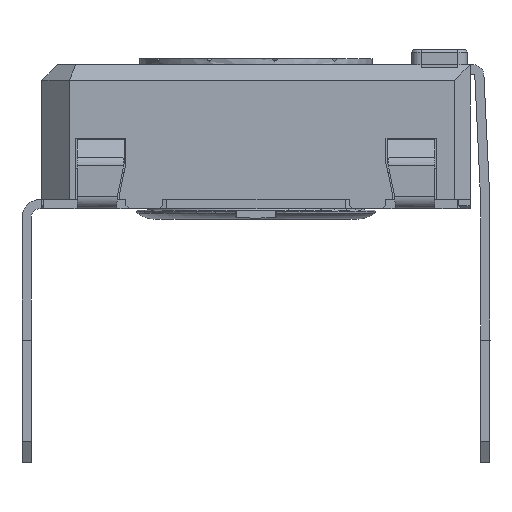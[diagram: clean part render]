
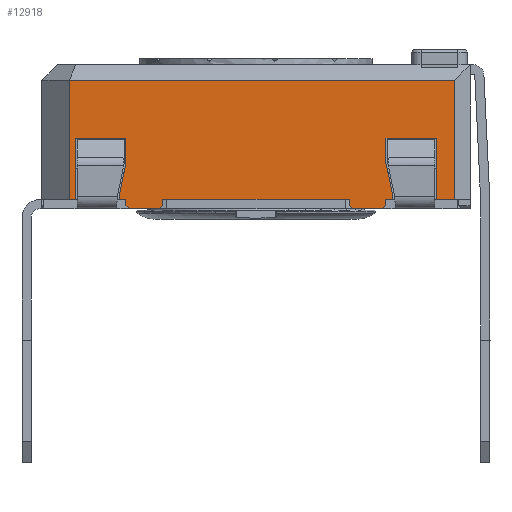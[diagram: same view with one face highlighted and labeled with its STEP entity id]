
A CAD part, left-side view. The second image highlights one B-rep face of the part: STEP entity #12918.
In plain terms, the highlighted planar face has unit normal (-1, 0, 0).
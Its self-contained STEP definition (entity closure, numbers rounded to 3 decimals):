
#447=PLANE('',#13794);
#1047=FACE_OUTER_BOUND('',#1735,.T.);
#1735=EDGE_LOOP('',(#10649,#10650,#10651,#10652,#10653,#10654,#10655,#10656,
#10657,#10658,#10659,#10660,#10661,#10662,#10663,#10664,#10665,#10666,#10667,
#10668,#10669,#10670,#10671,#10672,#10673,#10674,#10675,#10676));
#2729=LINE('',#19708,#4217);
#2735=LINE('',#19720,#4223);
#2738=LINE('',#19727,#4226);
#2743=LINE('',#19736,#4231);
#2763=LINE('',#19777,#4251);
#2777=LINE('',#19803,#4265);
#2781=LINE('',#19810,#4269);
#2796=LINE('',#19839,#4284);
#2799=LINE('',#19845,#4287);
#2804=LINE('',#19855,#4292);
#2807=LINE('',#19861,#4295);
#2810=LINE('',#19867,#4298);
#2828=LINE('',#19902,#4316);
#2840=LINE('',#19924,#4328);
#2843=LINE('',#19930,#4331);
#2880=LINE('',#20064,#4368);
#2888=LINE('',#20078,#4376);
#2897=LINE('',#20096,#4385);
#2902=LINE('',#20106,#4390);
#2904=LINE('',#20109,#4392);
#3028=LINE('',#20417,#4516);
#3030=LINE('',#20422,#4518);
#3033=LINE('',#20426,#4521);
#3035=LINE('',#20430,#4523);
#3038=LINE('',#20438,#4526);
#3039=LINE('',#20440,#4527);
#3040=LINE('',#20441,#4528);
#3041=LINE('',#20442,#4529);
#4217=VECTOR('',#15839,10.);
#4223=VECTOR('',#15847,10.);
#4226=VECTOR('',#15852,10.);
#4231=VECTOR('',#15859,10.);
#4251=VECTOR('',#15893,10.);
#4265=VECTOR('',#15907,10.);
#4269=VECTOR('',#15911,10.);
#4284=VECTOR('',#15938,10.);
#4287=VECTOR('',#15943,10.);
#4292=VECTOR('',#15950,10.);
#4295=VECTOR('',#15955,10.);
#4298=VECTOR('',#15960,10.);
#4316=VECTOR('',#15980,10.);
#4328=VECTOR('',#15994,10.);
#4331=VECTOR('',#15999,10.);
#4368=VECTOR('',#16080,10.);
#4376=VECTOR('',#16090,10.);
#4385=VECTOR('',#16101,10.);
#4390=VECTOR('',#16108,10.);
#4392=VECTOR('',#16112,10.);
#4516=VECTOR('',#16404,10.);
#4518=VECTOR('',#16408,10.);
#4521=VECTOR('',#16413,10.);
#4523=VECTOR('',#16419,10.);
#4526=VECTOR('',#16430,10.);
#4527=VECTOR('',#16431,10.);
#4528=VECTOR('',#16432,10.);
#4529=VECTOR('',#16433,10.);
#5927=VERTEX_POINT('',#19705);
#5928=VERTEX_POINT('',#19707);
#5932=VERTEX_POINT('',#19717);
#5934=VERTEX_POINT('',#19723);
#5936=VERTEX_POINT('',#19726);
#5939=VERTEX_POINT('',#19734);
#5964=VERTEX_POINT('',#19800);
#5965=VERTEX_POINT('',#19802);
#5967=VERTEX_POINT('',#19807);
#5968=VERTEX_POINT('',#19809);
#5975=VERTEX_POINT('',#19836);
#5977=VERTEX_POINT('',#19842);
#5981=VERTEX_POINT('',#19852);
#5983=VERTEX_POINT('',#19858);
#5986=VERTEX_POINT('',#19865);
#6002=VERTEX_POINT('',#19900);
#6011=VERTEX_POINT('',#19922);
#6013=VERTEX_POINT('',#19928);
#6040=VERTEX_POINT('',#20062);
#6045=VERTEX_POINT('',#20076);
#6052=VERTEX_POINT('',#20093);
#6056=VERTEX_POINT('',#20103);
#6130=VERTEX_POINT('',#20414);
#6131=VERTEX_POINT('',#20416);
#6132=VERTEX_POINT('',#20420);
#6133=VERTEX_POINT('',#20421);
#6134=VERTEX_POINT('',#20437);
#6135=VERTEX_POINT('',#20439);
#7421=EDGE_CURVE('',#5928,#5927,#2729,.T.);
#7427=EDGE_CURVE('',#5927,#5932,#2735,.T.);
#7430=EDGE_CURVE('',#5936,#5934,#2738,.T.);
#7435=EDGE_CURVE('',#5939,#5934,#2743,.T.);
#7455=EDGE_CURVE('',#5932,#5936,#2763,.T.);
#7469=EDGE_CURVE('',#5965,#5964,#2777,.T.);
#7473=EDGE_CURVE('',#5968,#5967,#2781,.T.);
#7489=EDGE_CURVE('',#5964,#5975,#2796,.T.);
#7492=EDGE_CURVE('',#5975,#5977,#2799,.T.);
#7497=EDGE_CURVE('',#5977,#5981,#2804,.T.);
#7500=EDGE_CURVE('',#5981,#5983,#2807,.T.);
#7503=EDGE_CURVE('',#5983,#5986,#2810,.T.);
#7521=EDGE_CURVE('',#5986,#6002,#2828,.T.);
#7533=EDGE_CURVE('',#6011,#6002,#2840,.T.);
#7536=EDGE_CURVE('',#6013,#6011,#2843,.T.);
#7585=EDGE_CURVE('',#6040,#6013,#2880,.T.);
#7593=EDGE_CURVE('',#6040,#6045,#2888,.T.);
#7602=EDGE_CURVE('',#6045,#6052,#2897,.T.);
#7607=EDGE_CURVE('',#6052,#6056,#2902,.T.);
#7609=EDGE_CURVE('',#6056,#5928,#2904,.T.);
#7749=EDGE_CURVE('',#6130,#6131,#3028,.T.);
#7751=EDGE_CURVE('',#6132,#6133,#3030,.T.);
#7754=EDGE_CURVE('',#5965,#6130,#3033,.T.);
#7756=EDGE_CURVE('',#5967,#6133,#3035,.T.);
#7759=EDGE_CURVE('',#5939,#6134,#3038,.T.);
#7760=EDGE_CURVE('',#6135,#6134,#3039,.T.);
#7761=EDGE_CURVE('',#5968,#6135,#3040,.T.);
#7762=EDGE_CURVE('',#6132,#6131,#3041,.T.);
#10649=ORIENTED_EDGE('',*,*,#7427,.T.);
#10650=ORIENTED_EDGE('',*,*,#7455,.T.);
#10651=ORIENTED_EDGE('',*,*,#7430,.T.);
#10652=ORIENTED_EDGE('',*,*,#7435,.F.);
#10653=ORIENTED_EDGE('',*,*,#7759,.T.);
#10654=ORIENTED_EDGE('',*,*,#7760,.F.);
#10655=ORIENTED_EDGE('',*,*,#7761,.F.);
#10656=ORIENTED_EDGE('',*,*,#7473,.T.);
#10657=ORIENTED_EDGE('',*,*,#7756,.T.);
#10658=ORIENTED_EDGE('',*,*,#7751,.F.);
#10659=ORIENTED_EDGE('',*,*,#7762,.T.);
#10660=ORIENTED_EDGE('',*,*,#7749,.F.);
#10661=ORIENTED_EDGE('',*,*,#7754,.F.);
#10662=ORIENTED_EDGE('',*,*,#7469,.T.);
#10663=ORIENTED_EDGE('',*,*,#7489,.T.);
#10664=ORIENTED_EDGE('',*,*,#7492,.T.);
#10665=ORIENTED_EDGE('',*,*,#7497,.T.);
#10666=ORIENTED_EDGE('',*,*,#7500,.T.);
#10667=ORIENTED_EDGE('',*,*,#7503,.T.);
#10668=ORIENTED_EDGE('',*,*,#7521,.T.);
#10669=ORIENTED_EDGE('',*,*,#7533,.F.);
#10670=ORIENTED_EDGE('',*,*,#7536,.F.);
#10671=ORIENTED_EDGE('',*,*,#7585,.F.);
#10672=ORIENTED_EDGE('',*,*,#7593,.T.);
#10673=ORIENTED_EDGE('',*,*,#7602,.T.);
#10674=ORIENTED_EDGE('',*,*,#7607,.T.);
#10675=ORIENTED_EDGE('',*,*,#7609,.T.);
#10676=ORIENTED_EDGE('',*,*,#7421,.T.);
#12918=ADVANCED_FACE('',(#1047),#447,.T.);
#13794=AXIS2_PLACEMENT_3D('',#20436,#16428,#16429);
#15839=DIRECTION('',(0.,0.208,-0.978));
#15847=DIRECTION('',(0.,0.,-1.));
#15852=DIRECTION('',(0.,0.,-1.));
#15859=DIRECTION('',(0.,0.707,0.707));
#15893=DIRECTION('',(0.,-1.,0.));
#15907=DIRECTION('',(0.,-1.,0.));
#15911=DIRECTION('',(0.,-1.,0.));
#15938=DIRECTION('',(0.,0.,1.));
#15943=DIRECTION('',(0.,0.208,0.978));
#15950=DIRECTION('',(0.,0.,1.));
#15955=DIRECTION('',(0.,-1.,0.));
#15960=DIRECTION('',(0.,0.,-1.));
#15980=DIRECTION('',(0.,-1.,0.));
#15994=DIRECTION('',(0.,0.,-1.));
#15999=DIRECTION('',(0.,-1.,0.));
#16080=DIRECTION('',(0.,0.,1.));
#16090=DIRECTION('',(0.,-1.,0.));
#16101=DIRECTION('',(0.,0.,1.));
#16108=DIRECTION('',(0.,-1.,0.));
#16112=DIRECTION('',(0.,0.,-1.));
#16404=DIRECTION('',(0.,0.707,-0.707));
#16408=DIRECTION('',(0.,0.707,0.707));
#16413=DIRECTION('',(0.,0.,-1.));
#16419=DIRECTION('',(0.,0.,-1.));
#16428=DIRECTION('center_axis',(-1.,0.,0.));
#16429=DIRECTION('ref_axis',(0.,0.,1.));
#16430=DIRECTION('',(0.,-1.,0.));
#16431=DIRECTION('',(0.,0.707,-0.707));
#16432=DIRECTION('',(0.,0.,-1.));
#16433=DIRECTION('',(0.,-1.,0.));
#19705=CARTESIAN_POINT('',(-14.467,1.552,0.235));
#19707=CARTESIAN_POINT('',(-14.467,1.352,1.176));
#19708=CARTESIAN_POINT('',(-14.467,1.228,1.757));
#19717=CARTESIAN_POINT('',(-14.467,1.552,0.));
#19720=CARTESIAN_POINT('',(-14.467,1.552,0.));
#19723=CARTESIAN_POINT('',(-14.467,1.352,-0.2));
#19726=CARTESIAN_POINT('',(-14.467,1.352,0.));
#19727=CARTESIAN_POINT('',(-14.467,1.352,0.));
#19734=CARTESIAN_POINT('',(-14.467,1.252,-0.3));
#19736=CARTESIAN_POINT('',(-14.467,-1.436,-2.988));
#19777=CARTESIAN_POINT('',(-14.467,4.102,0.));
#19800=CARTESIAN_POINT('',(-14.467,-7.348,0.));
#19802=CARTESIAN_POINT('',(-14.467,-7.148,0.));
#19803=CARTESIAN_POINT('',(-14.467,4.102,0.));
#19807=CARTESIAN_POINT('',(-14.467,-5.948,0.));
#19809=CARTESIAN_POINT('',(-14.467,0.152,0.));
#19810=CARTESIAN_POINT('',(-14.467,4.102,0.));
#19836=CARTESIAN_POINT('',(-14.467,-7.348,0.235));
#19839=CARTESIAN_POINT('',(-14.467,-7.348,0.118));
#19842=CARTESIAN_POINT('',(-14.467,-7.148,1.176));
#19845=CARTESIAN_POINT('',(-14.467,-7.453,-0.254));
#19852=CARTESIAN_POINT('',(-14.467,-7.148,2.));
#19855=CARTESIAN_POINT('',(-14.467,-7.148,0.588));
#19858=CARTESIAN_POINT('',(-14.467,-8.798,2.));
#19861=CARTESIAN_POINT('',(-14.467,-8.523,2.));
#19865=CARTESIAN_POINT('',(-14.467,-8.798,0.));
#19867=CARTESIAN_POINT('',(-14.467,-8.798,0.));
#19900=CARTESIAN_POINT('',(-14.467,-9.398,0.));
#19902=CARTESIAN_POINT('',(-14.467,-9.595,0.));
#19922=CARTESIAN_POINT('',(-14.467,-9.398,3.9));
#19924=CARTESIAN_POINT('',(-14.467,-9.398,0.));
#19928=CARTESIAN_POINT('',(-14.467,3.202,3.9));
#19930=CARTESIAN_POINT('',(-14.467,-6.398,3.9));
#20062=CARTESIAN_POINT('',(-14.467,3.202,0.));
#20064=CARTESIAN_POINT('',(-14.467,3.202,0.));
#20076=CARTESIAN_POINT('',(-14.467,3.002,0.));
#20078=CARTESIAN_POINT('',(-14.467,-2.985,0.));
#20093=CARTESIAN_POINT('',(-14.467,3.002,2.));
#20096=CARTESIAN_POINT('',(-14.467,3.002,0.));
#20103=CARTESIAN_POINT('',(-14.467,1.352,2.));
#20106=CARTESIAN_POINT('',(-14.467,-3.448,2.));
#20109=CARTESIAN_POINT('',(-14.467,1.352,1.));
#20414=CARTESIAN_POINT('',(-14.467,-7.148,-0.2));
#20416=CARTESIAN_POINT('',(-14.467,-7.048,-0.3));
#20417=CARTESIAN_POINT('',(-14.467,-7.861,0.513));
#20420=CARTESIAN_POINT('',(-14.467,-6.048,-0.3));
#20421=CARTESIAN_POINT('',(-14.467,-5.948,-0.2));
#20422=CARTESIAN_POINT('',(-14.467,-6.911,-1.163));
#20426=CARTESIAN_POINT('',(-14.467,-7.148,0.));
#20430=CARTESIAN_POINT('',(-14.467,-5.948,0.));
#20436=CARTESIAN_POINT('Origin',(-14.467,-9.898,0.));
#20437=CARTESIAN_POINT('',(-14.467,0.252,-0.3));
#20438=CARTESIAN_POINT('',(-14.467,0.152,-0.3));
#20439=CARTESIAN_POINT('',(-14.467,0.152,-0.2));
#20440=CARTESIAN_POINT('',(-14.467,-2.386,2.338));
#20441=CARTESIAN_POINT('',(-14.467,0.152,0.));
#20442=CARTESIAN_POINT('',(-14.467,-7.148,-0.3));
